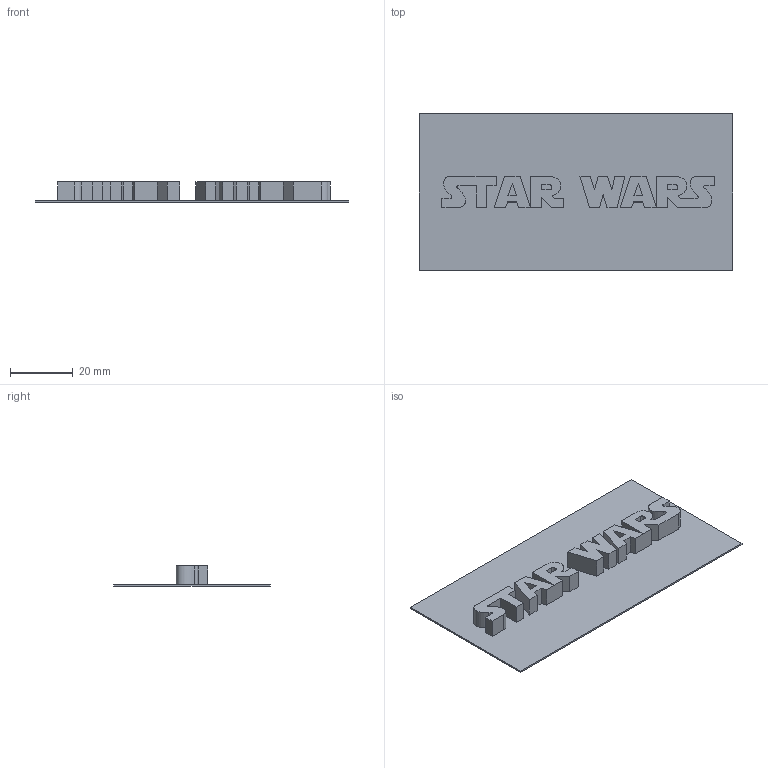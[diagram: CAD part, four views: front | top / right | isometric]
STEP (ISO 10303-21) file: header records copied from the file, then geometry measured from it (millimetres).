
FILE_DESCRIPTION((''),'2;1');
FILE_NAME('C:\Users\Jose Luis Fernandez\Desktop\grabacad\ZACTUALIZADOS\logo-star-wars INVENTOR\STEP\logo star wars.stp','2012-12-22T12:49:25',('Jose Luis Fernandez'),(''),'Autodesk Inventor 2010','Autodesk Inventor 2010','');
FILE_SCHEMA(('AUTOMOTIVE_DESIGN { 1 0 10303 214 1 1 1 1 }'));
Length unit declared in the file: millimetre
Products named in the file (1): logo star wars
Bounding box: 100 x 50 x 6.5 mm (x, y, z)
Volume: 5976.7 mm3; surface area: 12483.5 mm2
Topology: 1 solids, 1 shells, 99 faces, 267 edges, 178 vertices
Faces by surface type: plane 83, bspline 16
Entity records: 3262 total; most frequent: CARTESIAN_POINT 745, ORIENTED_EDGE 534, DIRECTION 403, EDGE_CURVE 267, VECTOR 235, LINE 235, VERTEX_POINT 178, EDGE_LOOP 107
